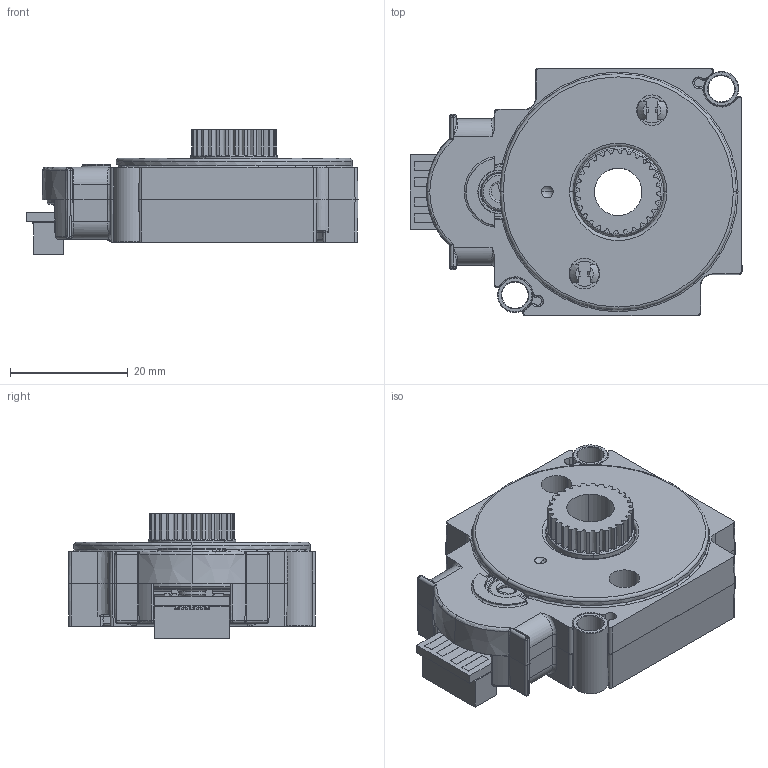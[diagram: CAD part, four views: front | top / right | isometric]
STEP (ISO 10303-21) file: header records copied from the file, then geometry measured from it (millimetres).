
FILE_DESCRIPTION (( 'STEP AP214' ), '1' );
FILE_NAME ('217-5046-STEP-20151201.STEP', '2015-12-01T23:16:32', ( '' ), ( '' ), 'SwSTEP 2.0', 'SolidWorks 2015', '' );
FILE_SCHEMA (( 'AUTOMOTIVE_DESIGN' ));
Length unit declared in the file: millimetre
Products named in the file (11): 217-4783-002 Rev7_Sealed Config; 217-2788-001 Rev3_57155K375; 217-4783-004 Rev2_40t_spur_REF_14deg; 217-5046-STEP-20151201; 217-4783-006 Rev3; 217-4783-008 Rev2; 217-4783-005 Rev7_40t_spur_REF_14deg; 217-4783-001 Rev3; 217-4783-007 Rev1; 217-4783-003 Rev4; PCBA Rev3
Assembly tree (11 placements, depth 2):
  217-5046-STEP-20151201
    217-4783-001 Rev3
    217-4783-002 Rev7_Sealed Config
    217-4783-005 Rev7_40t_spur_REF_14deg
    217-4783-004 Rev2_40t_spur_REF_14deg
    217-4783-008 Rev2
    PCBA Rev3
    217-2788-001 Rev3_57155K375
    217-4783-006 Rev3  x2
    217-4783-007 Rev1
    217-4783-003 Rev4
Bounding box: 56.31 x 42 x 21.2 mm (x, y, z)
Volume: 12559.7 mm3; surface area: 20795 mm2
Topology: 25 solids, 51 shells, 2935 faces, 7289 edges, 4335 vertices
Faces by surface type: cylinder 795, plane 713, bspline 614, torus 340, sphere 261, cone 212
Entity records: 131245 total; most frequent: CARTESIAN_POINT 63235, ORIENTED_EDGE 13940, DIRECTION 13080, EDGE_CURVE 7099, AXIS2_PLACEMENT_3D 5223, VERTEX_POINT 4269, EDGE_LOOP 2995, ADVANCED_FACE 2921
